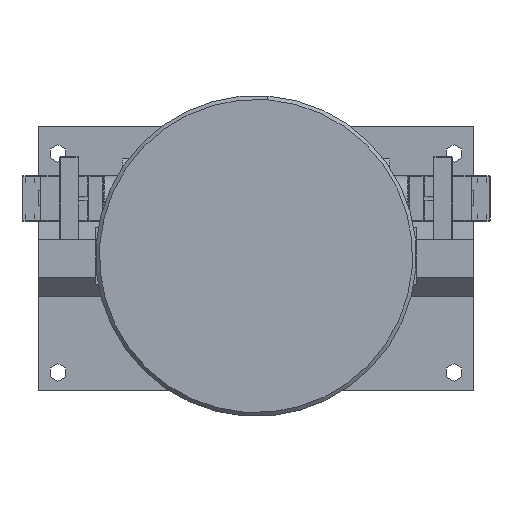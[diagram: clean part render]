
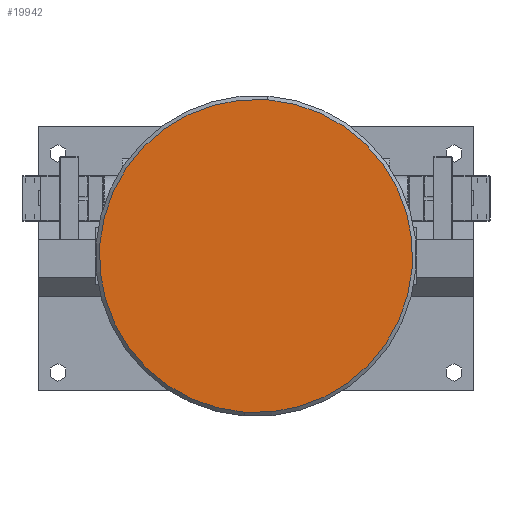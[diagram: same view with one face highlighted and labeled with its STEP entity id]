
A CAD part, front view. The second image highlights one B-rep face of the part: STEP entity #19942.
In plain terms, the highlighted planar face has unit normal (0, -1, 0) as drawn and (0, 0, -1) by its records, which use the part's own axes.
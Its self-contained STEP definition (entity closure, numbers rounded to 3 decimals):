
#2568 = DIRECTION ( 'NONE',  ( 0., 0., -1. ) ) ;
#3419 = CIRCLE ( 'NONE', #35715, 41.5 ) ;
#4132 = CARTESIAN_POINT ( 'NONE',  ( 0., 0., 0. ) ) ;
#5529 = CARTESIAN_POINT ( 'NONE',  ( 41.5, 0., 0. ) ) ;
#5636 = DIRECTION ( 'NONE',  ( 1., 0., 0. ) ) ;
#5638 = CARTESIAN_POINT ( 'NONE',  ( 0., 0., 0. ) ) ;
#5820 = CARTESIAN_POINT ( 'NONE',  ( 0., 0., 0. ) ) ;
#9414 = DIRECTION ( 'NONE',  ( 1., 0., 0. ) ) ;
#10247 = ORIENTED_EDGE ( 'NONE', *, *, #21972, .T. ) ;
#13252 = VERTEX_POINT ( 'NONE', #5529 ) ;
#14622 = AXIS2_PLACEMENT_3D ( 'NONE', #5820, #33337, #5636 ) ;
#18491 = CIRCLE ( 'NONE', #14622, 41.5 ) ;
#19044 = ORIENTED_EDGE ( 'NONE', *, *, #31602, .T. ) ;
#19942 = ADVANCED_FACE ( 'NONE', ( #31451 ), #34869, .F. ) ;
#21946 = DIRECTION ( 'NONE',  ( 0., 0., 1. ) ) ;
#21972 = EDGE_CURVE ( 'NONE', #39555, #13252, #3419, .T. ) ;
#23834 = CARTESIAN_POINT ( 'NONE',  ( -41.5, 0., 0. ) ) ;
#23863 = EDGE_LOOP ( 'NONE', ( #19044, #10247 ) ) ;
#27258 = DIRECTION ( 'NONE',  ( 1., 0., 0. ) ) ;
#31451 = FACE_OUTER_BOUND ( 'NONE', #23863, .T. ) ;
#31602 = EDGE_CURVE ( 'NONE', #13252, #39555, #18491, .T. ) ;
#33337 = DIRECTION ( 'NONE',  ( 0., 0., -1. ) ) ;
#34869 = PLANE ( 'NONE',  #38404 ) ;
#35715 = AXIS2_PLACEMENT_3D ( 'NONE', #5638, #2568, #27258 ) ;
#38404 = AXIS2_PLACEMENT_3D ( 'NONE', #4132, #21946, #9414 ) ;
#39555 = VERTEX_POINT ( 'NONE', #23834 ) ;
